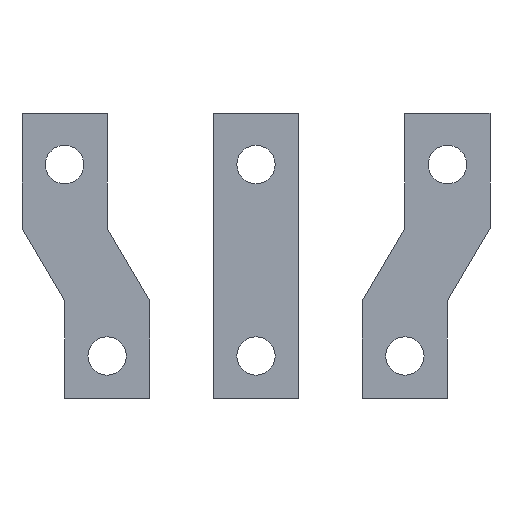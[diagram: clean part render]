
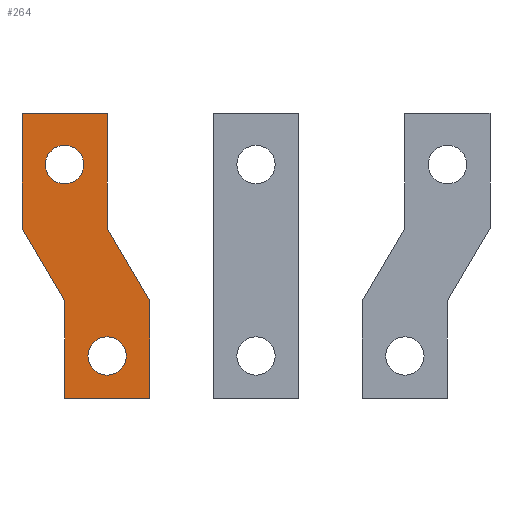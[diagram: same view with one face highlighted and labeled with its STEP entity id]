
A CAD part, front view. The second image highlights one B-rep face of the part: STEP entity #264.
In plain terms, the highlighted planar face has unit normal (0, -1, 0).
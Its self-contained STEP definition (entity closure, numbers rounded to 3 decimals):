
#2 = VECTOR ( 'NONE', #845, 1000. ) ;
#8 = CARTESIAN_POINT ( 'NONE',  ( 10., 0., -57. ) ) ;
#12 = AXIS2_PLACEMENT_3D ( 'NONE', #8, #891, #430 ) ;
#25 = EDGE_CURVE ( 'NONE', #748, #782, #543, .T. ) ;
#31 = VERTEX_POINT ( 'NONE', #427 ) ;
#40 = EDGE_LOOP ( 'NONE', ( #538, #905, #315, #281, #52, #754, #655, #385 ) ) ;
#52 = ORIENTED_EDGE ( 'NONE', *, *, #618, .F. ) ;
#64 = VERTEX_POINT ( 'NONE', #573 ) ;
#73 = DIRECTION ( 'NONE',  ( -1., 0., 0. ) ) ;
#78 = LINE ( 'NONE', #215, #86 ) ;
#86 = VECTOR ( 'NONE', #365, 1000. ) ;
#96 = VERTEX_POINT ( 'NONE', #940 ) ;
#102 = LINE ( 'NONE', #760, #2 ) ;
#105 = VERTEX_POINT ( 'NONE', #937 ) ;
#108 = VERTEX_POINT ( 'NONE', #207 ) ;
#129 = CIRCLE ( 'NONE', #743, 4.5 ) ;
#152 = VECTOR ( 'NONE', #163, 1000. ) ;
#153 = DIRECTION ( 'NONE',  ( 1., 0., 0. ) ) ;
#157 = EDGE_LOOP ( 'NONE', ( #910, #558 ) ) ;
#159 = CARTESIAN_POINT ( 'NONE',  ( 20., 0., -44. ) ) ;
#161 = ORIENTED_EDGE ( 'NONE', *, *, #25, .F. ) ;
#163 = DIRECTION ( 'NONE',  ( 0., 0., -1. ) ) ;
#183 = EDGE_CURVE ( 'NONE', #105, #505, #626, .T. ) ;
#195 = VECTOR ( 'NONE', #397, 1000. ) ;
#207 = CARTESIAN_POINT ( 'NONE',  ( 10., 0., 0. ) ) ;
#210 = DIRECTION ( 'NONE',  ( 1., 0., 0. ) ) ;
#212 = CARTESIAN_POINT ( 'NONE',  ( 0., 0., -12. ) ) ;
#215 = CARTESIAN_POINT ( 'NONE',  ( 10., 0., -27. ) ) ;
#231 = VECTOR ( 'NONE', #412, 1000. ) ;
#255 = CARTESIAN_POINT ( 'NONE',  ( 10., 0., 0. ) ) ;
#264 = ADVANCED_FACE ( 'NONE', ( #779, #577, #657 ), #645, .F. ) ;
#266 = EDGE_CURVE ( 'NONE', #509, #576, #408, .T. ) ;
#271 = DIRECTION ( 'NONE',  ( 1., 0., 0. ) ) ;
#280 = CARTESIAN_POINT ( 'NONE',  ( 5.5, 0., -57. ) ) ;
#281 = ORIENTED_EDGE ( 'NONE', *, *, #183, .F. ) ;
#287 = CARTESIAN_POINT ( 'NONE',  ( 10., 0., -57. ) ) ;
#293 = CARTESIAN_POINT ( 'NONE',  ( 0., 0., -12. ) ) ;
#301 = AXIS2_PLACEMENT_3D ( 'NONE', #886, #650, #153 ) ;
#315 = ORIENTED_EDGE ( 'NONE', *, *, #854, .F. ) ;
#324 = CARTESIAN_POINT ( 'NONE',  ( -4.5, 0., -12. ) ) ;
#325 = EDGE_LOOP ( 'NONE', ( #706, #161 ) ) ;
#328 = CARTESIAN_POINT ( 'NONE',  ( 4.5, 0., -12. ) ) ;
#360 = EDGE_CURVE ( 'NONE', #782, #748, #129, .T. ) ;
#365 = DIRECTION ( 'NONE',  ( 0.507, 0., -0.862 ) ) ;
#372 = VERTEX_POINT ( 'NONE', #806 ) ;
#384 = EDGE_CURVE ( 'NONE', #64, #612, #78, .T. ) ;
#385 = ORIENTED_EDGE ( 'NONE', *, *, #512, .F. ) ;
#397 = DIRECTION ( 'NONE',  ( -1., 0., 0. ) ) ;
#408 = CIRCLE ( 'NONE', #12, 4.5 ) ;
#412 = DIRECTION ( 'NONE',  ( 0., 0., 1. ) ) ;
#427 = CARTESIAN_POINT ( 'NONE',  ( -10., 0., -27. ) ) ;
#430 = DIRECTION ( 'NONE',  ( -1., 0., 0. ) ) ;
#431 = DIRECTION ( 'NONE',  ( 1., 0., 0. ) ) ;
#445 = VECTOR ( 'NONE', #271, 1000. ) ;
#455 = CARTESIAN_POINT ( 'NONE',  ( -10., 0., -27. ) ) ;
#459 = DIRECTION ( 'NONE',  ( 0., 0., -1. ) ) ;
#484 = CARTESIAN_POINT ( 'NONE',  ( 20., 0., -67. ) ) ;
#502 = DIRECTION ( 'NONE',  ( 0., -1., 0. ) ) ;
#505 = VERTEX_POINT ( 'NONE', #935 ) ;
#509 = VERTEX_POINT ( 'NONE', #280 ) ;
#511 = DIRECTION ( 'NONE',  ( 0., 0., 1. ) ) ;
#512 = EDGE_CURVE ( 'NONE', #96, #108, #923, .T. ) ;
#538 = ORIENTED_EDGE ( 'NONE', *, *, #555, .F. ) ;
#543 = CIRCLE ( 'NONE', #729, 4.5 ) ;
#555 = EDGE_CURVE ( 'NONE', #31, #96, #658, .T. ) ;
#558 = ORIENTED_EDGE ( 'NONE', *, *, #899, .F. ) ;
#573 = CARTESIAN_POINT ( 'NONE',  ( 10., 0., -27. ) ) ;
#576 = VERTEX_POINT ( 'NONE', #591 ) ;
#577 = FACE_BOUND ( 'NONE', #157, .T. ) ;
#591 = CARTESIAN_POINT ( 'NONE',  ( 14.5, 0., -57. ) ) ;
#612 = VERTEX_POINT ( 'NONE', #159 ) ;
#618 = EDGE_CURVE ( 'NONE', #612, #105, #819, .T. ) ;
#626 = LINE ( 'NONE', #484, #195 ) ;
#633 = CARTESIAN_POINT ( 'NONE',  ( 0., 0., -67. ) ) ;
#645 = PLANE ( 'NONE',  #301 ) ;
#650 = DIRECTION ( 'NONE',  ( 0., 1., 0. ) ) ;
#655 = ORIENTED_EDGE ( 'NONE', *, *, #727, .F. ) ;
#657 = FACE_OUTER_BOUND ( 'NONE', #40, .T. ) ;
#658 = LINE ( 'NONE', #455, #776 ) ;
#701 = CARTESIAN_POINT ( 'NONE',  ( -10., 0., 0. ) ) ;
#706 = ORIENTED_EDGE ( 'NONE', *, *, #360, .F. ) ;
#723 = DIRECTION ( 'NONE',  ( 0., -1., 0. ) ) ;
#727 = EDGE_CURVE ( 'NONE', #108, #64, #907, .T. ) ;
#729 = AXIS2_PLACEMENT_3D ( 'NONE', #212, #502, #431 ) ;
#742 = CARTESIAN_POINT ( 'NONE',  ( 20., 0., -44. ) ) ;
#743 = AXIS2_PLACEMENT_3D ( 'NONE', #293, #723, #73 ) ;
#748 = VERTEX_POINT ( 'NONE', #328 ) ;
#754 = ORIENTED_EDGE ( 'NONE', *, *, #384, .F. ) ;
#757 = EDGE_CURVE ( 'NONE', #372, #31, #102, .T. ) ;
#760 = CARTESIAN_POINT ( 'NONE',  ( 0., 0., -44. ) ) ;
#776 = VECTOR ( 'NONE', #511, 1000. ) ;
#779 = FACE_BOUND ( 'NONE', #325, .T. ) ;
#782 = VERTEX_POINT ( 'NONE', #324 ) ;
#793 = LINE ( 'NONE', #633, #231 ) ;
#806 = CARTESIAN_POINT ( 'NONE',  ( 0., 0., -44. ) ) ;
#808 = CIRCLE ( 'NONE', #836, 4.5 ) ;
#819 = LINE ( 'NONE', #742, #152 ) ;
#836 = AXIS2_PLACEMENT_3D ( 'NONE', #287, #934, #210 ) ;
#845 = DIRECTION ( 'NONE',  ( -0.507, 0., 0.862 ) ) ;
#854 = EDGE_CURVE ( 'NONE', #505, #372, #793, .T. ) ;
#886 = CARTESIAN_POINT ( 'NONE',  ( 0., 0., 0. ) ) ;
#891 = DIRECTION ( 'NONE',  ( 0., -1., 0. ) ) ;
#899 = EDGE_CURVE ( 'NONE', #576, #509, #808, .T. ) ;
#902 = VECTOR ( 'NONE', #459, 1000. ) ;
#905 = ORIENTED_EDGE ( 'NONE', *, *, #757, .F. ) ;
#907 = LINE ( 'NONE', #255, #902 ) ;
#910 = ORIENTED_EDGE ( 'NONE', *, *, #266, .F. ) ;
#923 = LINE ( 'NONE', #701, #445 ) ;
#934 = DIRECTION ( 'NONE',  ( 0., -1., 0. ) ) ;
#935 = CARTESIAN_POINT ( 'NONE',  ( 0., 0., -67. ) ) ;
#937 = CARTESIAN_POINT ( 'NONE',  ( 20., 0., -67. ) ) ;
#940 = CARTESIAN_POINT ( 'NONE',  ( -10., 0., 0. ) ) ;
